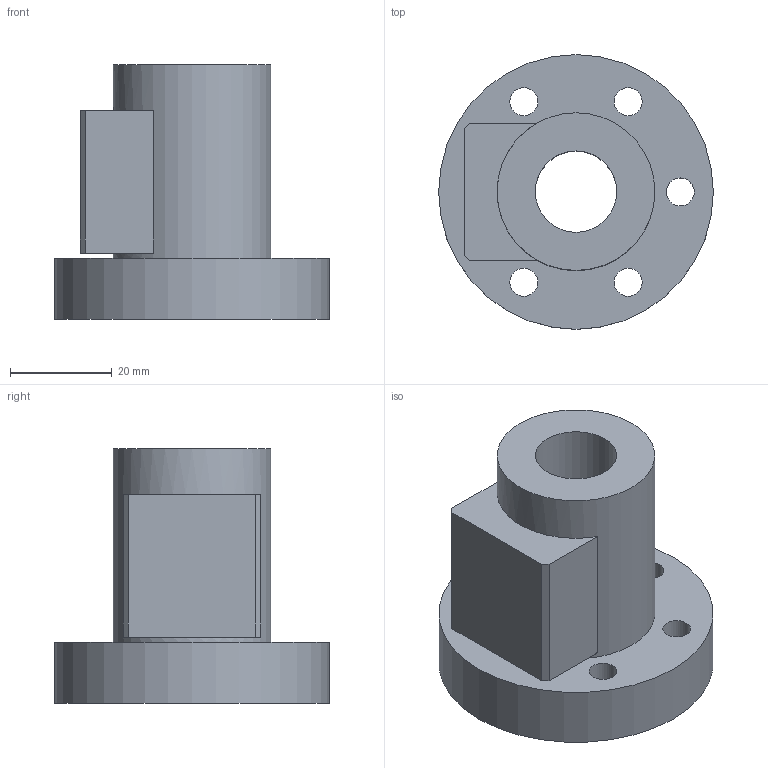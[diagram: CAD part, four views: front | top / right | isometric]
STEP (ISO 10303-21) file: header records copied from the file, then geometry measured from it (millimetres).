
FILE_DESCRIPTION(/* description */ (''),/* implementation_level */ '2;1');
FILE_NAME(/* name */ '16-5C1',/* time_stamp */ '2006-06-16T09:36:28+08:00',/* author */ (''),/* organization */ (''),/* preprocessor_version */ 'ST-DEVELOPER v9',/* originating_system */ 'UGS - NX 4.0',/* authorisation */ '');
FILE_SCHEMA (('CONFIG_CONTROL_DESIGN'));
Length unit declared in the file: millimetre
Products named in the file (1): 16-5C1
Bounding box: 54 x 54 x 50 mm (x, y, z)
Volume: 50003 mm3; surface area: 14656.4 mm2
Topology: 1 solids, 1 shells, 28 faces, 61 edges, 42 vertices
Faces by surface type: plane 15, cylinder 13
Full cylindrical faces by diameter (mm): 5.5 x5, 9.5 x5, 16 x1, 31 x1, 54 x1
Entity records: 794 total; most frequent: DIRECTION 130, CARTESIAN_POINT 111, ORIENTED_EDGE 88, EDGE_LOOP 60, AXIS2_PLACEMENT_3D 57, FACE_BOUND 45, EDGE_CURVE 44, VERTEX_POINT 38
